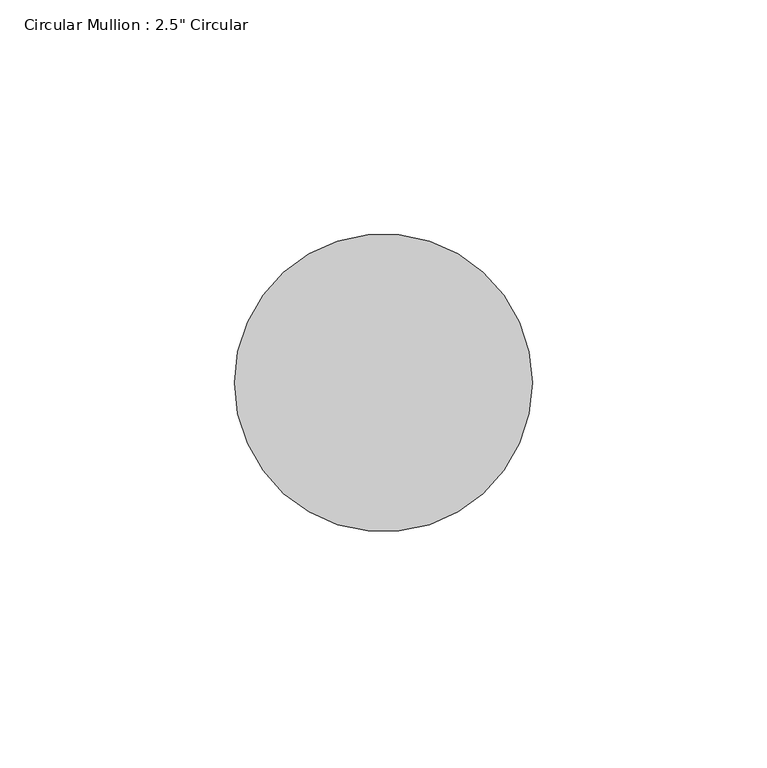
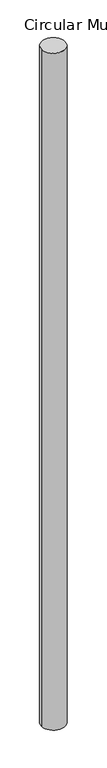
"""IFC4 building model written with IfcOpenShell, lengths in millimetres: member geometry."""

from ifc_helpers import new_model, si_unit, point, frame, origin, origin_2d, place, context, project, spatial, circle_curve, trimmed, segment, composite_curve, outline, extrude, source, transform, mapped, element, save


def member_c198bb08(model_context):
    return source(origin(), model_context, "Body", "SweptSolid", [
        extrude(outline(composite_curve([segment(trimmed(circle_curve(origin_2d(), 31.75), [point((31.75, 0.0))], [point((-31.75, 0.0))], False, "CARTESIAN"), True, "CONTINUOUS"), segment(trimmed(circle_curve(origin_2d(), 31.75), [point((-31.75, 0.0))], [point((31.75, 0.0))], False, "CARTESIAN"), True, "CONTINUOUS")], self_intersect=False)), frame((0.0, 0.0, -1923.2684777), z_axis=(0.0, 0.0, 1.0), x_axis=(1.0, 0.0, 0.0)), (0.0, 0.0, 1.0), 1923.2684777),
    ])


if __name__ == "__main__":
    model = new_model("IFC4")
    model_context = context("Model", 3, world=origin())
    ifc_project = project(units=[si_unit("LENGTHUNIT", "METRE", prefix="MILLI")], contexts=[model_context])
    site = spatial("IfcSite", under=ifc_project)
    building = spatial("IfcBuilding", under=site)
    placement = place(None, origin())
    member_shape = member_c198bb08(model_context)
    element("IfcMember", 1, ObjectType="Circular Mullion : 2.5\" Circular", at=placement, inside=building, context=model_context, shape_type="MappedRepresentation", body=[
        mapped(member_shape, transform((0.0, 0.0, 0.0), x_axis=(1.0, 0.0, 0.0), y_axis=(0.0, 1.0, 0.0), z_axis=(0.0, 0.0, 1.0))),
    ])
    save(model, "model.ifc")
